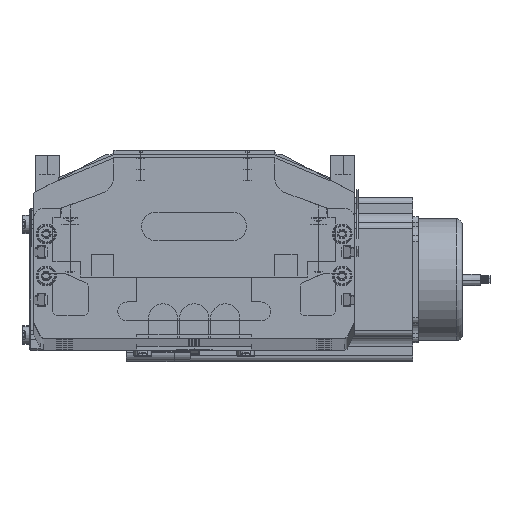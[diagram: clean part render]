
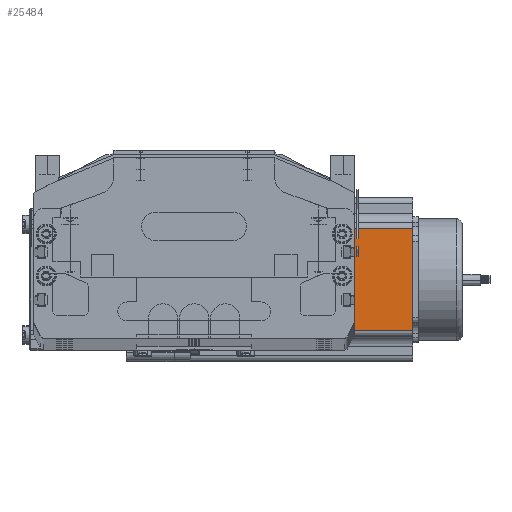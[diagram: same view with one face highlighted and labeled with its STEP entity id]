
A CAD part, top view. The second image highlights one B-rep face of the part: STEP entity #25484.
In plain terms, the highlighted planar face has unit normal (0, 0, 1) as drawn and (0, -1, 0) by its records, which use the part's own axes.
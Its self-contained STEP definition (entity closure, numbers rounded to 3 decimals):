
#9891 = DIRECTION ( 'NONE',  ( 1., 0., 0. ) ) ;
#9894 = VECTOR ( 'NONE', #9891, 1000. ) ;
#9911 = LINE ( 'NONE', #9972, #9894 ) ;
#9954 = CARTESIAN_POINT ( 'NONE',  ( 16.16, 0., 0. ) ) ;
#9972 = CARTESIAN_POINT ( 'NONE',  ( 0., 0., 116.5 ) ) ;
#24968 = EDGE_CURVE ( 'NONE', #25303, #25356, #42870, .T. ) ;
#25051 = ORIENTED_EDGE ( 'NONE', *, *, #25298, .F. ) ;
#25054 = EDGE_CURVE ( 'NONE', #25381, #25303, #74886, .T. ) ;
#25259 = EDGE_CURVE ( 'NONE', #25356, #25478, #75149, .T. ) ;
#25276 = ORIENTED_EDGE ( 'NONE', *, *, #25259, .T. ) ;
#25298 = EDGE_CURVE ( 'NONE', #25381, #25478, #9911, .T. ) ;
#25303 = VERTEX_POINT ( 'NONE', #9954 ) ;
#25356 = VERTEX_POINT ( 'NONE', #75336 ) ;
#25381 = VERTEX_POINT ( 'NONE', #75368 ) ;
#25403 = ORIENTED_EDGE ( 'NONE', *, *, #25054, .T. ) ;
#25475 = ORIENTED_EDGE ( 'NONE', *, *, #24968, .T. ) ;
#25478 = VERTEX_POINT ( 'NONE', #75599 ) ;
#25479 = EDGE_LOOP ( 'NONE', ( #25475, #25276, #25051, #25403 ) ) ;
#25484 = ADVANCED_FACE ( 'NONE', ( #75647 ), #75563, .F. ) ;
#42849 = CARTESIAN_POINT ( 'NONE',  ( 0., 0., 0. ) ) ;
#42855 = DIRECTION ( 'NONE',  ( 1., 0., 0. ) ) ;
#42870 = LINE ( 'NONE', #42849, #42886 ) ;
#42886 = VECTOR ( 'NONE', #42855, 1000. ) ;
#74883 = DIRECTION ( 'NONE',  ( 0., 0., -1. ) ) ;
#74884 = VECTOR ( 'NONE', #74883, 1000. ) ;
#74885 = CARTESIAN_POINT ( 'NONE',  ( 16.16, 0., 116.5 ) ) ;
#74886 = LINE ( 'NONE', #74885, #74884 ) ;
#75146 = DIRECTION ( 'NONE',  ( 0., 0., 1. ) ) ;
#75147 = VECTOR ( 'NONE', #75146, 1000. ) ;
#75148 = CARTESIAN_POINT ( 'NONE',  ( 69.74, 0., 116.5 ) ) ;
#75149 = LINE ( 'NONE', #75148, #75147 ) ;
#75336 = CARTESIAN_POINT ( 'NONE',  ( 69.74, 0., 0. ) ) ;
#75368 = CARTESIAN_POINT ( 'NONE',  ( 16.16, 0., 116.5 ) ) ;
#75563 = PLANE ( 'NONE',  #75643 ) ;
#75599 = CARTESIAN_POINT ( 'NONE',  ( 69.74, 0., 116.5 ) ) ;
#75634 = DIRECTION ( 'NONE',  ( 0., 0., 1. ) ) ;
#75642 = DIRECTION ( 'NONE',  ( 0., 1., 0. ) ) ;
#75643 = AXIS2_PLACEMENT_3D ( 'NONE', #75658, #75642, #75634 ) ;
#75647 = FACE_OUTER_BOUND ( 'NONE', #25479, .T. ) ;
#75658 = CARTESIAN_POINT ( 'NONE',  ( 0., 0., 116.5 ) ) ;
